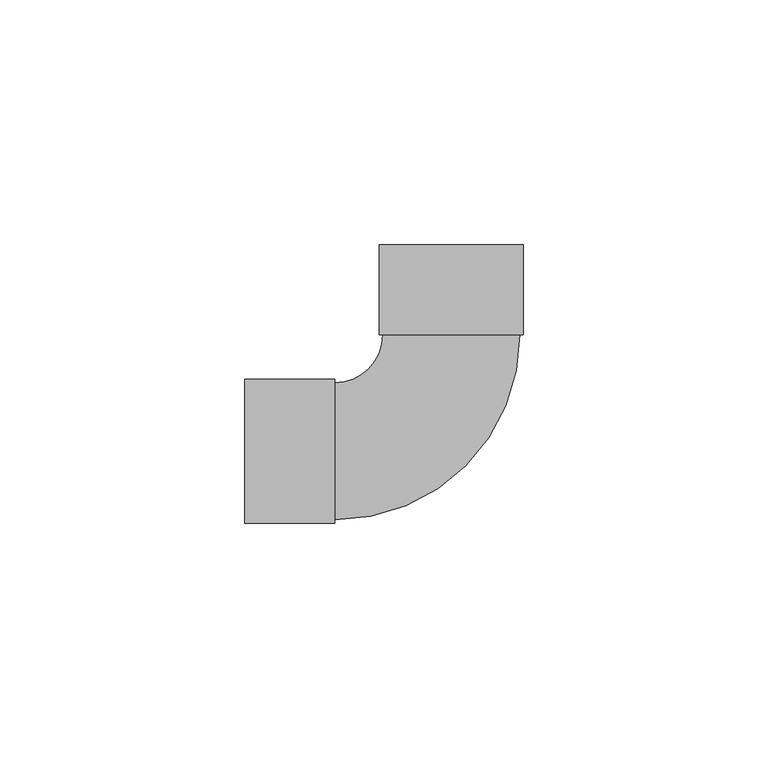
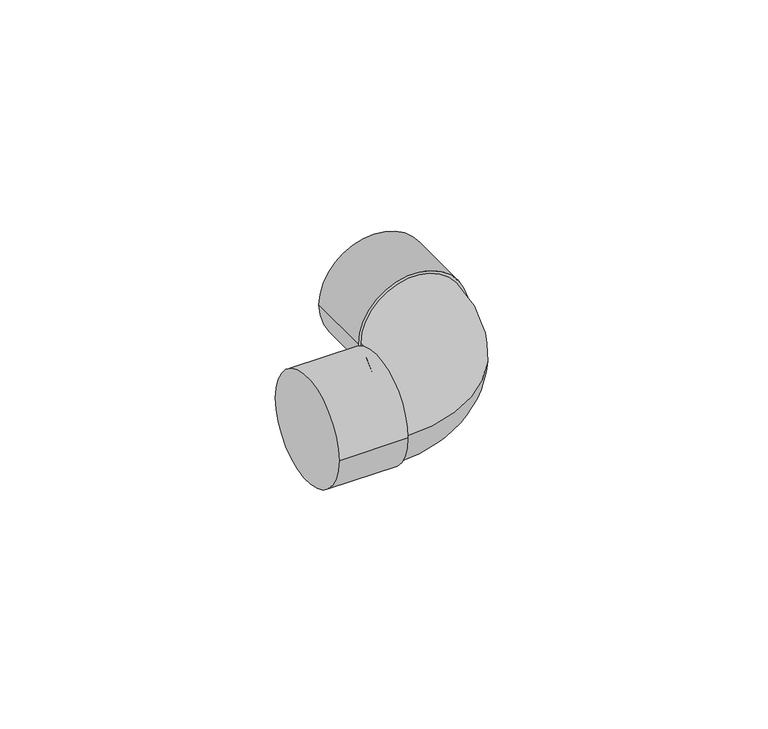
"""IFC4 building model written with IfcOpenShell, lengths in millimetres: pipe fitting geometry, Cotovelo - Soldado - CU : Padrão."""

from ifc_helpers import new_model, si_unit, point, frame, origin, place, context, project, spatial, circle_curve, ellipse_curve, trimmed, source, transform, mapped, element, save
from ifc_brep_helpers import plane_surface, cylinder_surface, revolved_surface, advanced_brep


def pipe_fitting_fefc82c8(model_context):
    return source(origin(), model_context, "Body", "AdvancedBrep", [
        advanced_brep(
        [(-14.0, 23.8, 0.0), (-23.8, 14.0, 0.0), (-23.8, -14.0, 0.0), (14.0, 23.8, 0.0), (-42.2, -14.7, 0.0), (-42.2, 14.7, 0.0), (-23.8, -14.7, 0.0), (-23.8, 14.7, 0.0), (-14.7, 42.2, 0.0), (14.7, 42.2, 0.0), (-14.7, 23.8, 0.0), (14.7, 23.8, 0.0)],
        [
            (0, 1, circle_curve(frame((-23.8, 23.8, 0.0), z_axis=(0.0, 0.0, -1.0), x_axis=(0.0, -1.0, 0.0)), 9.8)),
            (1, 2, circle_curve(frame((-23.8, 0.0, 0.0), z_axis=(1.0, 0.0, 0.0), x_axis=(0.0, 1.0, 0.0)), 14.0)),
            (2, 3, circle_curve(frame((-23.8, 23.8, 0.0), z_axis=(0.0, 0.0, 1.0), x_axis=(0.0, -1.0, 0.0)), 37.8)),
            (3, 0, circle_curve(frame((0.0, 23.8, 0.0), z_axis=(0.0, -1.0, 0.0), x_axis=(-1.0, 0.0, 0.0)), 14.0)),
            (0, 3, circle_curve(frame((0.0, 23.8, 0.0), z_axis=(0.0, -1.0, 0.0), x_axis=(-1.0, 0.0, 0.0)), 14.0)),
            (2, 1, circle_curve(frame((-23.8, 0.0, 0.0), z_axis=(1.0, 0.0, 0.0), x_axis=(0.0, 1.0, 0.0)), 14.0)),
            (4, 5, circle_curve(frame((-42.2, 0.0, 0.0), z_axis=(-1.0, 0.0, 0.0), x_axis=(0.0, 1.0, 0.0)), 14.7)),
            (5, 4, circle_curve(frame((-42.2, 0.0, 0.0), z_axis=(-1.0, 0.0, 0.0), x_axis=(0.0, 1.0, 0.0)), 14.7)),
            (6, 7, circle_curve(frame((-23.8, 0.0, 0.0), z_axis=(1.0, 0.0, 0.0), x_axis=(0.0, 1.0, 0.0)), 14.7)),
            (7, 6, circle_curve(frame((-23.8, 0.0, 0.0), z_axis=(1.0, 0.0, 0.0), x_axis=(0.0, 1.0, 0.0)), 14.7)),
            (4, 6),
            (7, 5),
            (8, 9, circle_curve(frame((0.0, 42.2, 0.0), z_axis=(0.0, 1.0, 0.0), x_axis=(1.0, 0.0, 0.0)), 14.7)),
            (9, 8, circle_curve(frame((0.0, 42.2, 0.0), z_axis=(0.0, 1.0, 0.0), x_axis=(1.0, 0.0, 0.0)), 14.7)),
            (10, 11, circle_curve(frame((0.0, 23.8, 0.0), z_axis=(0.0, -1.0, 0.0), x_axis=(1.0, 0.0, 0.0)), 14.7)),
            (11, 10, circle_curve(frame((0.0, 23.8, 0.0), z_axis=(0.0, -1.0, 0.0), x_axis=(1.0, 0.0, 0.0)), 14.7)),
            (8, 10),
            (11, 9),
        ],
        [
            revolved_surface(trimmed(ellipse_curve(frame((-23.8, 0.0, 0.0), z_axis=(-1.0, 0.0, 0.0), x_axis=(0.0, 1.0, 0.0)), 14.0, 14.0), [point((-23.8, -14.0, 0.0))], [point((-23.8, 14.0, 0.0))], True, "CARTESIAN"), (-23.8, 23.8, 0.0), (0.0, 0.0, 1.0)),
            revolved_surface(trimmed(ellipse_curve(frame((-23.8, 0.0, 0.0), z_axis=(-1.0, 0.0, 0.0), x_axis=(0.0, 1.0, 0.0)), 14.0, 14.0), [point((-23.8, 14.0, 0.0))], [point((-23.8, -14.0, 0.0))], True, "CARTESIAN"), (-23.8, 23.8, 0.0), (0.0, 0.0, 1.0)),
            plane_surface(frame((-42.2, 0.0, 0.0), z_axis=(-1.0, 0.0, 0.0), x_axis=(0.0, 0.0, 1.0))),
            plane_surface(frame((-23.8, 0.0, 0.0), z_axis=(1.0, 0.0, 0.0), x_axis=(0.0, 0.0, 1.0))),
            cylinder_surface(frame((-42.2, 0.0, 0.0), z_axis=(-1.0, 0.0, 0.0), x_axis=(0.0, 1.0, 0.0)), 14.7),
            plane_surface(frame((0.0, 42.2, 0.0), z_axis=(0.0, 1.0, 0.0), x_axis=(0.0, 0.0, 1.0))),
            plane_surface(frame((0.0, 23.8, 0.0), z_axis=(0.0, -1.0, 0.0), x_axis=(0.0, 0.0, 1.0))),
            cylinder_surface(frame((0.0, 42.2, 0.0), z_axis=(0.0, 1.0, 0.0), x_axis=(1.0, 0.0, 0.0)), 14.7),
        ],
        [
            (0, [[1, 2, 3, 4]]),
            (1, [[-1, 5, -3, 6]]),
            (2, [[7, 8]]),
            (3, [[9, 10], [-2, -6]]),
            (4, [[-7, 11, -10, 12]]),
            (4, [[-8, -12, -9, -11]]),
            (5, [[13, 14]]),
            (6, [[15, 16], [-4, -5]]),
            (7, [[-13, 17, -16, 18]]),
            (7, [[-14, -18, -15, -17]]),
        ],
    ),
    ])


if __name__ == "__main__":
    model = new_model("IFC4")
    model_context = context("Model", 3, world=origin())
    ifc_project = project(units=[si_unit("LENGTHUNIT", "METRE", prefix="MILLI")], contexts=[model_context])
    site = spatial("IfcSite", under=ifc_project)
    building = spatial("IfcBuilding", under=site)
    placement = place(None, origin())
    pipe_fitting_shape = pipe_fitting_fefc82c8(model_context)
    element("IfcPipeFitting", 1, ObjectType="Cotovelo - Soldado - CU : Padrão", at=placement, inside=building, context=model_context, shape_type="MappedRepresentation", body=[
        mapped(pipe_fitting_shape, transform((0.0, 0.0, 0.0), x_axis=(1.0, 0.0, 0.0), y_axis=(0.0, 1.0, 0.0), z_axis=(0.0, 0.0, 1.0))),
    ])
    save(model, "model.ifc")
